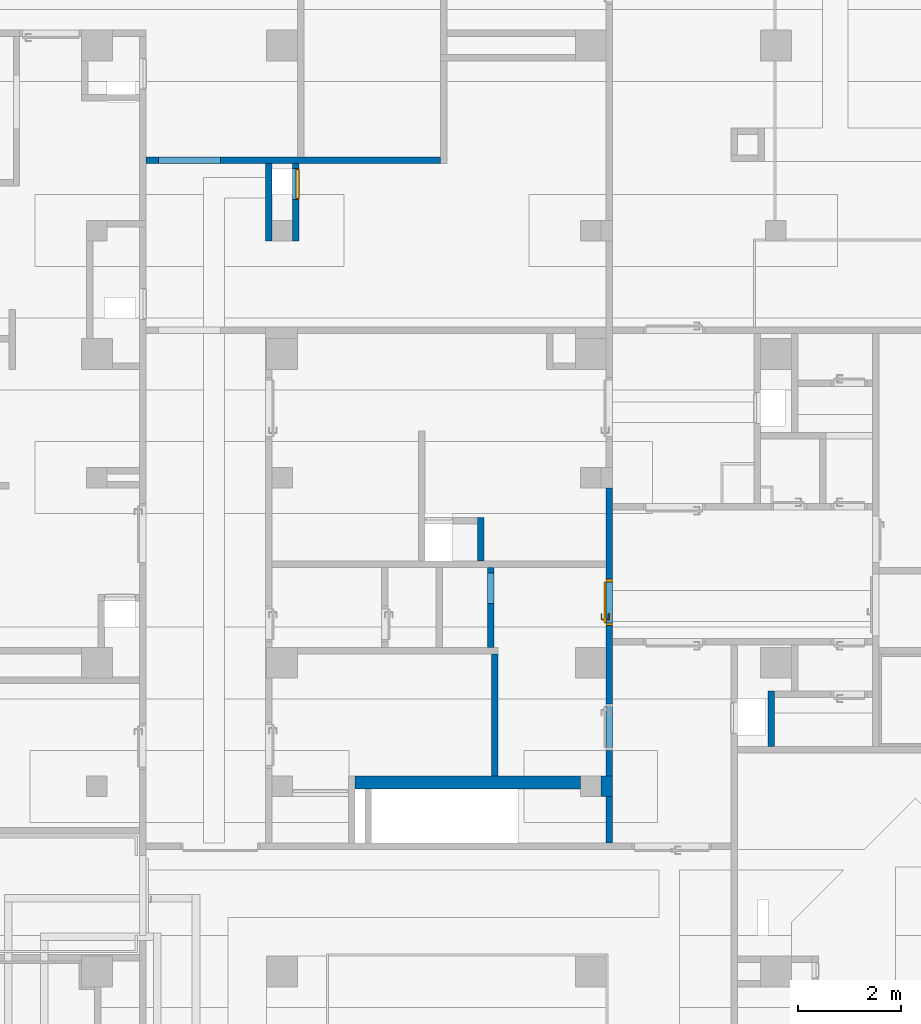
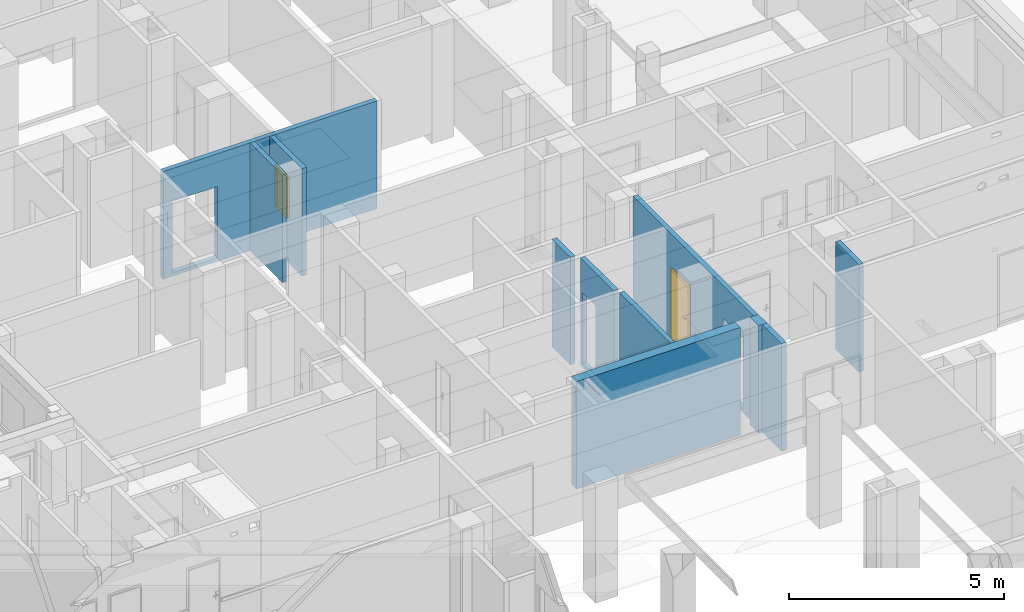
# One storey, part 32 of 84: 11 walls, 1 door, 1 window, 5 openings.
"""IFC4 building model written with IfcOpenShell, lengths in metres."""

from ifc_helpers import new_model, entity, si_unit, converted_unit, derived_unit, frame, frame_2d, origin, origin_with_axes, place, context, subcontext, project, spatial, polyline, rectangle, outline, extrude, closed_shell, open_shell, faceted_brep, surface_model, source, transform, mapped, material, layer, layer_set, layer_usage, type_object, element, fill, save


model = new_model("IFC4")

# Units and contexts
model_context = context("Model", 3, precision=1e-05, world=origin())
body_context = subcontext(model_context, "Body", "Model", "MODEL_VIEW")
ifc_project = project(units=[si_unit("LENGTHUNIT", "METRE"), si_unit("AREAUNIT", "SQUARE_METRE"), si_unit("VOLUMEUNIT", "CUBIC_METRE"), si_unit("MASSUNIT", "GRAM", prefix="KILO"), converted_unit("PLANEANGLEUNIT", "DEGREE", entity("IfcPlaneAngleMeasure", 0.0174532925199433), si_unit("PLANEANGLEUNIT", "RADIAN"), dimensions=[0, 0, 0, 0, 0, 0, 0]), derived_unit("THERMALTRANSMITTANCEUNIT", [(si_unit("POWERUNIT", "WATT"), 1), (si_unit("THERMODYNAMICTEMPERATUREUNIT", "KELVIN"), -1), (si_unit("LENGTHUNIT", "METRE"), -2)]), derived_unit("VOLUMETRICFLOWRATEUNIT", [(si_unit("LENGTHUNIT", "METRE"), 3), (converted_unit("TIMEUNIT", "hour", entity("IfcTimeMeasure", 3600.0), si_unit("TIMEUNIT", "SECOND"), dimensions=[0, 0, 1, 0, 0, 0, 0]), -1), (si_unit("LENGTHUNIT", "METRE"), -1)])], contexts=[model_context])

# Site, building, storey
site_placement = place(None, origin())
site = spatial("IfcSite", under=ifc_project, at=site_placement, Name="3. ASŘ", CompositionType="ELEMENT")
building_placement = place(site_placement, origin())
building = spatial("IfcBuilding", under=site, at=building_placement, Name="Pavilon C", CompositionType="ELEMENT")
storey_placement = place(building_placement, frame((0.0, 0.0, -3.3)))
storey = spatial("IfcBuildingStorey", under=building, at=storey_placement, Name="Půdorys 1.PP", CompositionType="ELEMENT", Elevation=-3.3)

# Walls
ifc_material_1 = material(Name="ZDIVO Z CDm")
ifc_layer_1 = layer(ifc_material_1, 0.25)
ifc_layer_set_1 = layer_set([ifc_layer_1])
ifc_layer_usage_1 = layer_usage(ifc_layer_set_1, "AXIS2", "POSITIVE", 0.0)
wall_1_placement = place(storey_placement, frame((35.7625, 10.75, -0.1)))
element("IfcWall", 1, at=wall_1_placement, inside=storey, material=ifc_layer_usage_1, Name="ZDIVO Z CDm", context=body_context, shape_type="SweptSolid", body=[
    extrude(rectangle(XDim=4.3875, YDim=0.25, at=frame_2d((2.19375, 0.125), x_axis=(1.0, 0.0))), origin_with_axes(), (0.0, 0.0, 1.0), 3.05),
])
ifc_material_2 = material(Name="ZDIVO Z CDm")
ifc_layer_2 = layer(ifc_material_2, 0.125)
ifc_layer_set_2 = layer_set([ifc_layer_2])
ifc_layer_usage_2 = layer_usage(ifc_layer_set_2, "AXIS2", "POSITIVE", 0.0)
wall_2_placement = place(storey_placement, frame((43.925, 11.575, -0.1), z_axis=(0.0, 0.0, 1.0), x_axis=(0.0, 1.0, 0.0)))
element("IfcWall", 2, at=wall_2_placement, inside=storey, material=ifc_layer_usage_2, Name="ZDIVO Z CDm", context=body_context, shape_type="SweptSolid", body=[
    extrude(rectangle(XDim=1.075, YDim=0.125, at=frame_2d((0.5375, 0.0625), x_axis=(1.0, 0.0))), origin_with_axes(), (0.0, 0.0, 1.0), 3.05),
])
ifc_material_3 = material(Name="ZDIVO Z CDm")
ifc_layer_3 = layer(ifc_material_3, 0.125)
ifc_layer_set_3 = layer_set([ifc_layer_3])
ifc_layer_usage_3 = layer_usage(ifc_layer_set_3, "AXIS2", "POSITIVE", 0.0)
wall_3_placement = place(storey_placement, frame((40.65, 10.6, -0.1), z_axis=(0.0, 0.0, 1.0), x_axis=(0.0, -1.0, 0.0)))
element("IfcWall", 3, at=wall_3_placement, inside=storey, material=ifc_layer_usage_3, Name="ZDIVO Z CDm", context=body_context, shape_type="SweptSolid", body=[
    extrude(rectangle(XDim=0.9, YDim=0.125, at=frame_2d((0.45, 0.0625), x_axis=(1.0, 0.0))), origin_with_axes(), (0.0, 0.0, 1.0), 3.05),
])
ifc_material_4 = material(Name="ZDIVO Z CDm")
ifc_layer_4 = layer(ifc_material_4, 0.225)
ifc_layer_set_4 = layer_set([ifc_layer_4])
ifc_layer_usage_4 = layer_usage(ifc_layer_set_4, "AXIS2", "POSITIVE", 0.0)
wall_4_placement = place(storey_placement, frame((40.775, 10.6, -0.1), z_axis=(0.0, 0.0, 1.0), x_axis=(0.0, 1.0, 0.0)))
element("IfcWall", 4, at=wall_4_placement, inside=storey, material=ifc_layer_usage_4, Name="ZDIVO Z CDm", context=body_context, shape_type="SweptSolid", body=[
    extrude(rectangle(XDim=0.4, YDim=0.225, at=frame_2d((0.2, 0.1125), x_axis=(1.0, 0.0))), origin_with_axes(), (0.0, 0.0, 1.0), 3.05),
])

# Wall, openings, door
ifc_material_5 = material(Name="ZDIVO Z CDm")
ifc_layer_5 = layer(ifc_material_5, 0.125)
ifc_layer_set_5 = layer_set([ifc_layer_5])
ifc_layer_usage_5 = layer_usage(ifc_layer_set_5, "AXIS2", "POSITIVE", 0.0)
wall_5_placement = place(storey_placement, frame((40.65, 16.6, -0.1), z_axis=(0.0, 0.0, 1.0), x_axis=(0.0, -1.0, 0.0)))
wall_5 = element("IfcWall", 5, at=wall_5_placement, inside=storey, material=ifc_layer_usage_5, Name="ZDIVO Z CDm", context=body_context, shape_type="SweptSolid", body=[
    extrude(rectangle(XDim=5.6, YDim=0.125, at=frame_2d((2.8, 0.0625), x_axis=(1.0, 0.0))), origin_with_axes(), (0.0, 0.0, 1.0), 3.05),
])
opening_1_placement = place(wall_5_placement, frame((2.675, 0.125, 0.1), z_axis=(0.0, -1.0, 0.0), x_axis=(0.0, 0.0, 1.0)))
opening_1 = element("IfcOpeningElement", 6, at=opening_1_placement, cuts=wall_5, Name="Dveřní otvor", ObjectType="Opening", context=body_context, shape_type="SweptSolid", body=[
    extrude(outline(polyline([(0.0, 0.9), (2.02, 0.9), (2.02, 0.0), (0.0, 0.0), (0.0, 0.9)])), origin_with_axes(), (0.0, 0.0, 1.0), 0.125),
])
opening_2_placement = place(wall_5_placement, frame((5.1, 0.125, 0.1), z_axis=(0.0, -1.0, 0.0), x_axis=(0.0, 0.0, 1.0)))
element("IfcOpeningElement", 7, at=opening_2_placement, cuts=wall_5, Name="Dveřní otvor", ObjectType="Opening", context=body_context, shape_type="SweptSolid", body=[
    extrude(outline(polyline([(0.0, 0.9), (2.02, 0.9), (2.02, 0.0), (0.0, 0.0), (0.0, 0.9)])), origin_with_axes(), (0.0, 0.0, 1.0), 0.125),
])
door_type = type_object("IfcDoorType", Name="D101", OperationType="NOTDEFINED", ParameterTakesPrecedence=False, PredefinedType="DOOR")
shared_shape_1 = source(origin_with_axes(), body_context, "Body", "SurfaceModel", [
    surface_model("IfcShellBasedSurfaceModel", [(0.0, 0.125, 2.02), (0.0, 0.125, -7.65404249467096e-18), (0.05, 0.125, -7.65404249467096e-18), (0.05, 0.125, 2.02), (0.0, 0.0, 7.65404249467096e-18), (0.0, 2.41584530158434e-16, 2.02), (0.05, 2.41584530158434e-16, 2.02), (0.05, 0.0, 7.65404249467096e-18)], [closed_shell([[[0, 1, 2, 3]], [[4, 5, 6, 7]], [[1, 0, 5, 4]], [[2, 1, 4, 7]], [[3, 2, 7, 6]], [[0, 3, 6, 5]]], orient=[[False], [False], [False], [False], [False], [False]])]),
    surface_model("IfcShellBasedSurfaceModel", [(0.85, 0.125, 2.02), (0.85, 0.125, -7.65404249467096e-18), (0.9, 0.125, -7.65404249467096e-18), (0.9, 0.125, 2.02), (0.85, 0.0, 7.65404249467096e-18), (0.85, 2.41584530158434e-16, 2.02), (0.9, 2.41584530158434e-16, 2.02), (0.9, 0.0, 7.65404249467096e-18)], [closed_shell([[[0, 1, 2, 3]], [[4, 5, 6, 7]], [[1, 0, 5, 4]], [[2, 1, 4, 7]], [[3, 2, 7, 6]], [[0, 3, 6, 5]]], orient=[[False], [False], [False], [False], [False], [False]])]),
    surface_model("IfcShellBasedSurfaceModel", [(0.05, 0.125, 2.02), (0.05, 0.125, 1.97), (0.85, 0.125, 1.97), (0.85, 0.125, 2.02), (0.05, 2.41584530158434e-16, 1.97), (0.05, 2.41584530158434e-16, 2.02), (0.85, 2.41584530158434e-16, 2.02), (0.85, 2.41584530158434e-16, 1.97)], [closed_shell([[[0, 1, 2, 3]], [[4, 5, 6, 7]], [[1, 0, 5, 4]], [[2, 1, 4, 7]], [[3, 2, 7, 6]], [[0, 3, 6, 5]]], orient=[[False], [False], [False], [False], [False], [False]])]),
    surface_model("IfcShellBasedSurfaceModel", [(0.05, 0.165, 1.97), (0.05, 0.165, -1.25526296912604e-17), (0.85, 0.165, -1.25526296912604e-17), (0.85, 0.165, 1.97), (0.05, 0.125, -7.65404249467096e-18), (0.05, 0.125, 1.97), (0.85, 0.125, 1.97), (0.85, 0.125, -7.65404249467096e-18)], [closed_shell([[[0, 1, 2, 3]], [[4, 5, 6, 7]], [[1, 0, 5, 4]], [[2, 1, 4, 7]], [[3, 2, 7, 6]], [[0, 3, 6, 5]]], orient=[[False], [False], [False], [False], [False], [False]])]),
    surface_model("IfcShellBasedSurfaceModel", [(0.76, 0.125, 1.125), (0.76, 0.125, 0.91), (0.81, 0.125, 0.91), (0.81, 0.125, 1.125), (0.76, 0.115, 0.91), (0.76, 0.115, 1.125), (0.81, 0.115, 1.125), (0.81, 0.115, 0.91)], [closed_shell([[[0, 1, 2, 3]], [[4, 5, 6, 7]], [[1, 0, 5, 4]], [[2, 1, 4, 7]], [[3, 2, 7, 6]], [[0, 3, 6, 5]]], orient=[[False], [False], [False], [False], [False], [False]])]),
    surface_model("IfcShellBasedSurfaceModel", [(0.785, 0.115, 1.06), (0.78, 0.115, 1.05866025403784), (0.776339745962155, 0.115, 1.055), (0.775, 0.115, 1.05), (0.776339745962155, 0.115, 1.045), (0.78, 0.115, 1.04133974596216), (0.785, 0.115, 1.04), (0.79, 0.115, 1.04133974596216), (0.793660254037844, 0.115, 1.045), (0.795, 0.115, 1.05), (0.793660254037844, 0.115, 1.055), (0.79, 0.115, 1.05866025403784), (0.79, 0.0700000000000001, 1.05866025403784), (0.785, 0.0750000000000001, 1.06), (0.793660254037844, 0.0663397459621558, 1.055), (0.795, 0.0650000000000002, 1.05), (0.793660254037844, 0.0663397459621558, 1.045), (0.79, 0.0700000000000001, 1.04133974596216), (0.785, 0.0750000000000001, 1.04), (0.78, 0.0800000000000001, 1.04133974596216), (0.776339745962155, 0.0836602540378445, 1.045), (0.775, 0.0850000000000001, 1.05), (0.776339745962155, 0.0836602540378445, 1.055), (0.78, 0.0800000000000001, 1.05866025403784), (0.67, 0.0700000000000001, 1.05866025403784), (0.67, 0.0750000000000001, 1.06), (0.67, 0.0663397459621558, 1.055), (0.67, 0.0650000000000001, 1.05), (0.67, 0.0663397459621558, 1.045), (0.67, 0.0700000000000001, 1.04133974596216), (0.67, 0.0750000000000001, 1.04), (0.67, 0.0800000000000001, 1.04133974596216), (0.67, 0.0836602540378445, 1.045), (0.67, 0.0850000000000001, 1.05), (0.67, 0.0836602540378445, 1.055), (0.67, 0.0800000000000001, 1.05866025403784)], [open_shell([[[0, 1, 2, 3, 4, 5, 6, 7, 8, 9, 10, 11]], [[0, 11, 12, 13]], [[11, 10, 14, 12]], [[10, 9, 15, 14]], [[9, 8, 16, 15]], [[8, 7, 17, 16]], [[7, 6, 18, 17]], [[6, 5, 19, 18]], [[5, 4, 20, 19]], [[4, 3, 21, 20]], [[3, 2, 22, 21]], [[2, 1, 23, 22]], [[1, 0, 13, 23]], [[13, 12, 24, 25]], [[12, 14, 26, 24]], [[14, 15, 27, 26]], [[15, 16, 28, 27]], [[16, 17, 29, 28]], [[17, 18, 30, 29]], [[18, 19, 31, 30]], [[19, 20, 32, 31]], [[20, 21, 33, 32]], [[21, 22, 34, 33]], [[22, 23, 35, 34]], [[23, 13, 25, 35]]], orient=[[False], [False], [False], [False], [False], [False], [False], [False], [False], [False], [False], [False], [False], [False], [False], [False], [False], [False], [False], [False], [False], [False], [False], [False], [False]])]),
    surface_model("IfcShellBasedSurfaceModel", [(0.76, 0.165, 1.125), (0.81, 0.165, 1.125), (0.81, 0.165, 0.91), (0.76, 0.165, 0.91), (0.76, 0.175, 0.91), (0.81, 0.175, 0.91), (0.81, 0.175, 1.125), (0.76, 0.175, 1.125)], [closed_shell([[[0, 1, 2, 3]], [[4, 5, 6, 7]], [[3, 4, 7, 0]], [[2, 5, 4, 3]], [[1, 6, 5, 2]], [[0, 7, 6, 1]]], orient=[[False], [False], [False], [False], [False], [False]])]),
    surface_model("IfcShellBasedSurfaceModel", [(0.785, 0.175, 1.06), (0.79, 0.175, 1.05866025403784), (0.793660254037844, 0.175, 1.055), (0.795, 0.175, 1.05), (0.793660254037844, 0.175, 1.045), (0.79, 0.175, 1.04133974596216), (0.785, 0.175, 1.04), (0.78, 0.175, 1.04133974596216), (0.776339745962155, 0.175, 1.045), (0.775, 0.175, 1.05), (0.776339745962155, 0.175, 1.055), (0.78, 0.175, 1.05866025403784), (0.785, 0.215, 1.06), (0.79, 0.22, 1.05866025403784), (0.793660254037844, 0.223660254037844, 1.055), (0.795, 0.225, 1.05), (0.793660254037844, 0.223660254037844, 1.045), (0.79, 0.22, 1.04133974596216), (0.785, 0.215, 1.04), (0.78, 0.21, 1.04133974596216), (0.776339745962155, 0.206339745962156, 1.045), (0.775, 0.205, 1.05), (0.776339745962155, 0.206339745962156, 1.055), (0.78, 0.21, 1.05866025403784), (0.67, 0.215, 1.06), (0.67, 0.22, 1.05866025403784), (0.67, 0.223660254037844, 1.055), (0.67, 0.225, 1.05), (0.67, 0.223660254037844, 1.045), (0.67, 0.22, 1.04133974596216), (0.67, 0.215, 1.04), (0.67, 0.21, 1.04133974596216), (0.67, 0.206339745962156, 1.045), (0.67, 0.205, 1.05), (0.67, 0.206339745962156, 1.055), (0.67, 0.21, 1.05866025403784)], [open_shell([[[0, 1, 2, 3, 4, 5, 6, 7, 8, 9, 10, 11]], [[0, 12, 13, 1]], [[1, 13, 14, 2]], [[2, 14, 15, 3]], [[3, 15, 16, 4]], [[4, 16, 17, 5]], [[5, 17, 18, 6]], [[6, 18, 19, 7]], [[7, 19, 20, 8]], [[8, 20, 21, 9]], [[9, 21, 22, 10]], [[10, 22, 23, 11]], [[11, 23, 12, 0]], [[12, 24, 25, 13]], [[13, 25, 26, 14]], [[14, 26, 27, 15]], [[15, 27, 28, 16]], [[16, 28, 29, 17]], [[17, 29, 30, 18]], [[18, 30, 31, 19]], [[19, 31, 32, 20]], [[20, 32, 33, 21]], [[21, 33, 34, 22]], [[22, 34, 35, 23]], [[23, 35, 24, 12]]], orient=[[False], [False], [False], [False], [False], [False], [False], [False], [False], [False], [False], [False], [False], [False], [False], [False], [False], [False], [False], [False], [False], [False], [False], [False], [False]])]),
])
door_placement = place(opening_1_placement, frame((0.0, 0.899999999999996, 1.45519152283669e-14), z_axis=(1.0, 0.0, 0.0), x_axis=(0.0, -1.0, 1.22464679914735e-16)))
door = element("IfcDoor", 8, at=door_placement, inside=storey, type_object=door_type, Name="D101", OverallHeight=2.02, OverallWidth=0.9, context=body_context, shape_type="MappedRepresentation", body=[
    mapped(shared_shape_1, transform((0.0, 0.0, 0.0), x_axis=(1.0, 0.0, 0.0), y_axis=(0.0, -1.0, 0.0), z_axis=(0.0, 0.0, 1.0), scale=1.0)),
])
fill(opening_1, door)

# Wall
ifc_material_6 = material(Name="ZDIVO Z CDm")
ifc_layer_6 = layer(ifc_material_6, 0.125)
ifc_layer_set_6 = layer_set([ifc_layer_6])
ifc_layer_usage_6 = layer_usage(ifc_layer_set_6, "AXIS2", "POSITIVE", 0.0)
wall_6_placement = place(storey_placement, frame((38.55, 11.0, -0.1), z_axis=(0.0, 0.0, 1.0), x_axis=(0.0, 1.0, 0.0)))
element("IfcWall", 9, at=wall_6_placement, inside=storey, material=ifc_layer_usage_6, Name="ZDIVO Z CDm", context=body_context, shape_type="SweptSolid", body=[
    extrude(rectangle(XDim=2.37500000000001, YDim=0.125, at=frame_2d((1.1875, 0.0625), x_axis=(1.0, 0.0))), origin_with_axes(), (0.0, 0.0, 1.0), 3.05),
])

# Wall, opening
ifc_material_7 = material(Name="ZDIVO Z CDm")
ifc_layer_7 = layer(ifc_material_7, 0.125)
ifc_layer_set_7 = layer_set([ifc_layer_7])
ifc_layer_usage_7 = layer_usage(ifc_layer_set_7, "AXIS2", "POSITIVE", 0.0)
wall_7_placement = place(storey_placement, frame((38.47, 13.5, -0.1), z_axis=(0.0, 0.0, 1.0), x_axis=(0.0, 1.0, 0.0)))
wall_7 = element("IfcWall", 10, at=wall_7_placement, inside=storey, material=ifc_layer_usage_7, Name="ZDIVO Z CDm", context=body_context, shape_type="SweptSolid", body=[
    extrude(rectangle(XDim=1.55, YDim=0.125, at=frame_2d((0.775, 0.0625), x_axis=(1.0, 0.0))), origin_with_axes(), (0.0, 0.0, 1.0), 3.05),
])
opening_3_placement = place(wall_7_placement, frame((1.45, 0.125, 0.1), z_axis=(0.0, -1.0, 0.0), x_axis=(0.0, 0.0, 1.0)))
element("IfcOpeningElement", 11, at=opening_3_placement, cuts=wall_7, Name="Dveřní otvor", ObjectType="Opening", context=body_context, shape_type="SweptSolid", body=[
    extrude(outline(polyline([(0.0, 0.6), (2.02, 0.6), (2.02, 0.0), (0.0, 0.0), (0.0, 0.6)])), origin_with_axes(), (0.0, 0.0, 1.0), 0.125),
])

# Wall
ifc_material_8 = material(Name="ZDIVO Z CDm")
ifc_layer_8 = layer(ifc_material_8, 0.125)
ifc_layer_set_8 = layer_set([ifc_layer_8])
ifc_layer_usage_8 = layer_usage(ifc_layer_set_8, "AXIS2", "POSITIVE", 0.0)
wall_8_placement = place(storey_placement, frame((38.275, 15.175, -0.1), z_axis=(0.0, 0.0, 1.0), x_axis=(0.0, 1.0, 0.0)))
element("IfcWall", 12, at=wall_8_placement, inside=storey, material=ifc_layer_usage_8, Name="ZDIVO Z CDm", context=body_context, shape_type="SweptSolid", body=[
    extrude(rectangle(XDim=0.85, YDim=0.125, at=frame_2d((0.425, 0.0625), x_axis=(1.0, 0.0))), origin_with_axes(), (0.0, 0.0, 1.0), 3.05),
])

# Wall, opening
ifc_material_9 = material(Name="ZDIVO Z CDm")
ifc_layer_9 = layer(ifc_material_9, 0.125)
ifc_layer_set_9 = layer_set([ifc_layer_9])
ifc_layer_usage_9 = layer_usage(ifc_layer_set_9, "AXIS2", "POSITIVE", 0.0)
wall_9_placement = place(storey_placement, frame((31.7, 22.905, -0.1)))
wall_9 = element("IfcWall", 13, at=wall_9_placement, inside=storey, material=ifc_layer_usage_9, Name="ZDIVO Z CDm", context=body_context, shape_type="SweptSolid", body=[
    extrude(rectangle(XDim=5.73, YDim=0.125, at=frame_2d((2.865, 0.0625), x_axis=(1.0, 0.0))), origin_with_axes(), (0.0, 0.0, 1.0), 3.05),
])
opening_4_placement = place(wall_9_placement, frame((0.25, 0.0, 0.1), z_axis=(0.0, 1.0, 0.0), x_axis=(0.0, 0.0, 1.0)))
element("IfcOpeningElement", 14, at=opening_4_placement, cuts=wall_9, Name="Dveřní otvor", ObjectType="Opening", context=body_context, shape_type="SweptSolid", body=[
    extrude(outline(polyline([(0.0, 1.2), (2.02, 1.2), (2.02, 0.0), (0.0, 0.0), (0.0, 1.2)])), origin_with_axes(), (0.0, 0.0, 1.0), 0.125),
])

# Wall, opening, window
ifc_material_10 = material(Name="ZDIVO Z CDm")
ifc_layer_10 = layer(ifc_material_10, 0.125)
ifc_layer_set_10 = layer_set([ifc_layer_10])
ifc_layer_usage_10 = layer_usage(ifc_layer_set_10, "AXIS2", "POSITIVE", 0.0)
wall_10_placement = place(storey_placement, frame((34.55, 22.905, -0.1), z_axis=(0.0, 0.0, 1.0), x_axis=(0.0, -1.0, 0.0)))
wall_10 = element("IfcWall", 15, at=wall_10_placement, inside=storey, material=ifc_layer_usage_10, Name="ZDIVO Z CDm", context=body_context, shape_type="SweptSolid", body=[
    extrude(rectangle(XDim=1.505, YDim=0.125, at=frame_2d((0.7525, 0.0625), x_axis=(1.0, 0.0))), origin_with_axes(), (0.0, 0.0, 1.0), 3.05),
])
opening_5_placement = place(wall_10_placement, frame((0.7, 0.125, 1.1), z_axis=(0.0, -1.0, 0.0), x_axis=(0.0, 0.0, 1.0)))
opening_5 = element("IfcOpeningElement", 16, at=opening_5_placement, cuts=wall_10, Name="Okenní otvor", ObjectType="Opening", context=body_context, shape_type="SweptSolid", body=[
    extrude(outline(polyline([(0.0, 0.6), (1.2, 0.6), (1.2, 0.0), (0.0, 0.0), (0.0, 0.6)])), origin_with_axes(), (0.0, 0.0, 1.0), 0.125),
])
shared_shape_2 = source(origin_with_axes(), body_context, "Body", "Brep", [
    faceted_brep([(0.0, 0.0600000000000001, 1.2), (0.0, 0.06, 4.91096680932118e-19), (0.02, 0.06, 4.91096680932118e-19), (0.02, 0.0600000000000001, 1.2), (0.0, 0.01, 6.61433067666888e-18), (0.0, 0.0100000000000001, 1.2), (0.02, 0.0100000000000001, 1.2), (0.02, 0.01, 6.61433067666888e-18)], [[[0, 1, 2, 3]], [[4, 5, 6, 7]], [[1, 0, 5, 4]], [[2, 1, 4, 7]], [[3, 2, 7, 6]], [[0, 3, 6, 5]]], orient=[[False], [False], [False], [False], [False], [False]]),
    faceted_brep([(0.58, 0.0600000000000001, 1.2), (0.58, 0.06, 4.91096680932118e-19), (0.6, 0.06, 4.91096680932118e-19), (0.6, 0.0600000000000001, 1.2), (0.58, 0.01, 6.61433067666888e-18), (0.58, 0.0100000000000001, 1.2), (0.6, 0.0100000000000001, 1.2), (0.6, 0.01, 6.61433067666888e-18)], [[[0, 1, 2, 3]], [[4, 5, 6, 7]], [[1, 0, 5, 4]], [[2, 1, 4, 7]], [[3, 2, 7, 6]], [[0, 3, 6, 5]]], orient=[[False], [False], [False], [False], [False], [False]]),
    faceted_brep([(0.02, 0.06, 0.02), (0.02, 0.06, 4.91096680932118e-19), (0.58, 0.06, 4.91096680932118e-19), (0.58, 0.06, 0.02), (0.02, 0.01, 6.61433067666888e-18), (0.02, 0.01, 0.02), (0.58, 0.01, 0.02), (0.58, 0.01, 6.61433067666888e-18)], [[[0, 1, 2, 3]], [[4, 5, 6, 7]], [[1, 0, 5, 4]], [[2, 1, 4, 7]], [[3, 2, 7, 6]], [[0, 3, 6, 5]]], orient=[[False], [False], [False], [False], [False], [False]]),
    faceted_brep([(0.02, 0.0600000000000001, 1.2), (0.02, 0.0600000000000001, 1.18), (0.58, 0.0600000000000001, 1.18), (0.58, 0.0600000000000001, 1.2), (0.02, 0.0100000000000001, 1.18), (0.02, 0.0100000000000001, 1.2), (0.58, 0.0100000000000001, 1.2), (0.58, 0.0100000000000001, 1.18)], [[[0, 1, 2, 3]], [[4, 5, 6, 7]], [[1, 0, 5, 4]], [[2, 1, 4, 7]], [[3, 2, 7, 6]], [[0, 3, 6, 5]]], orient=[[False], [False], [False], [False], [False], [False]]),
    faceted_brep([(0.02, 0.0100000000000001, 1.18), (0.02, 0.01, 0.02), (0.58, 0.01, 0.02), (0.58, 0.0100000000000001, 1.18), (0.02, 0.0, 0.02), (0.02, 1.4210854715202e-16, 1.18), (0.58, 1.4210854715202e-16, 1.18), (0.58, 0.0, 0.02)], [[[0, 1, 2, 3]], [[4, 5, 6, 7]], [[1, 0, 5, 4]], [[2, 1, 4, 7]], [[3, 2, 7, 6]], [[0, 3, 6, 5]]], orient=[[False], [False], [False], [False], [False], [False]]),
])
window_placement = place(opening_5_placement, frame((0.0, 0.599999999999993, -0.00999999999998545), z_axis=(1.0, 0.0, 0.0), x_axis=(0.0, -1.0, 1.22464679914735e-16)))
window = element("IfcWindow", 17, at=window_placement, inside=storey, Name="O01", OverallHeight=1.2, OverallWidth=0.6, PartitioningType="USERDEFINED", PredefinedType="WINDOW", context=body_context, shape_type="MappedRepresentation", body=[
    mapped(shared_shape_2, transform((0.0, 0.0, 0.0), x_axis=(1.0, 0.0, 0.0), y_axis=(0.0, -1.0, 0.0), z_axis=(0.0, 0.0, 1.0), scale=1.0)),
])
fill(opening_5, window)

# Wall
ifc_material_11 = material(Name="ZDIVO Z CDm")
ifc_layer_11 = layer(ifc_material_11, 0.125)
ifc_layer_set_11 = layer_set([ifc_layer_11])
ifc_layer_usage_11 = layer_usage(ifc_layer_set_11, "AXIS2", "POSITIVE", 0.0)
wall_11_placement = place(storey_placement, frame((34.15, 21.4, -0.1), z_axis=(0.0, 0.0, 1.0), x_axis=(0.0, 1.0, 0.0)))
element("IfcWall", 18, at=wall_11_placement, inside=storey, material=ifc_layer_usage_11, Name="ZDIVO Z CDm", context=body_context, shape_type="SweptSolid", body=[
    extrude(rectangle(XDim=1.505, YDim=0.125, at=frame_2d((0.7525, 0.0625), x_axis=(1.0, 0.0))), origin_with_axes(), (0.0, 0.0, 1.0), 3.05),
])

save(model, "model.ifc")
